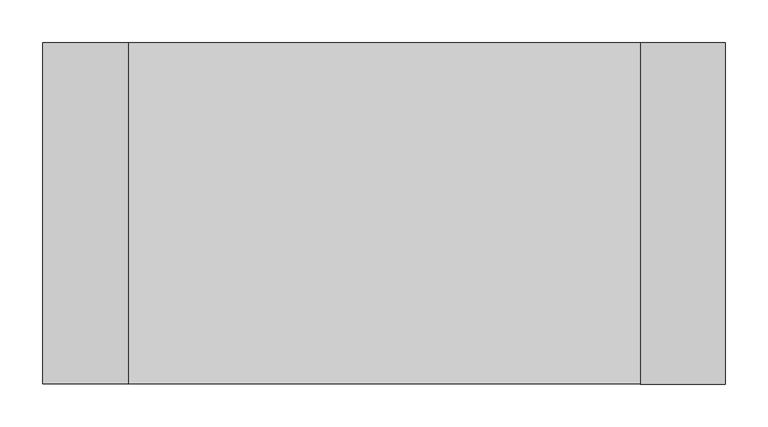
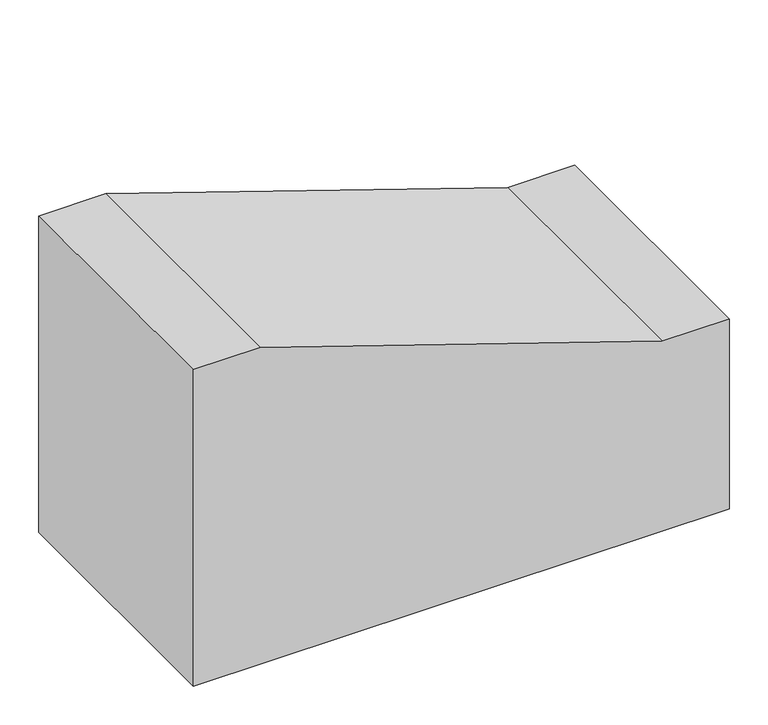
"""IFC4 building model written with IfcOpenShell, lengths in millimetres: duct fitting geometry, 2017_Reducción_Climaver_Reducción-Rectangular-a-una-cara-horizontal-en-U : Reducción en U a cara horizontal."""

from ifc_helpers import new_model, si_unit, frame, origin, place, context, project, spatial, polyline, outline, extrude, source, transform, mapped, element, save


def duct_fitting_ab9984f8(model_context):
    return source(origin(), model_context, "Body", "SweptSolid", [
        extrude(outline(polyline([(250.0, -400.0), (-250.0, -400.0), (-250.0, 400.0), (50.0, 400.0), (50.0, 300.0), (250.0, -300.0), (250.0, -400.0)])), frame((0.0, -200.0, 0.0), z_axis=(0.0, 1.0, 0.0), x_axis=(0.0, 0.0, 1.0)), (0.0, 0.0, 1.0), 400.0),
    ])


if __name__ == "__main__":
    model = new_model("IFC4")
    model_context = context("Model", 3, world=origin())
    ifc_project = project(units=[si_unit("LENGTHUNIT", "METRE", prefix="MILLI")], contexts=[model_context])
    site = spatial("IfcSite", under=ifc_project)
    building = spatial("IfcBuilding", under=site)
    placement = place(None, origin())
    duct_fitting_shape = duct_fitting_ab9984f8(model_context)
    element("IfcDuctFitting", 1, ObjectType="2017_Reducción_Climaver_Reducción-Rectangular-a-una-cara-horizontal-en-U : Reducción en U a cara horizontal", at=placement, inside=building, context=model_context, shape_type="MappedRepresentation", body=[
        mapped(duct_fitting_shape, transform((0.0, 0.0, 0.0), x_axis=(1.0, 0.0, 0.0), y_axis=(0.0, 1.0, 0.0), z_axis=(0.0, 0.0, 1.0))),
    ])
    save(model, "model.ifc")
